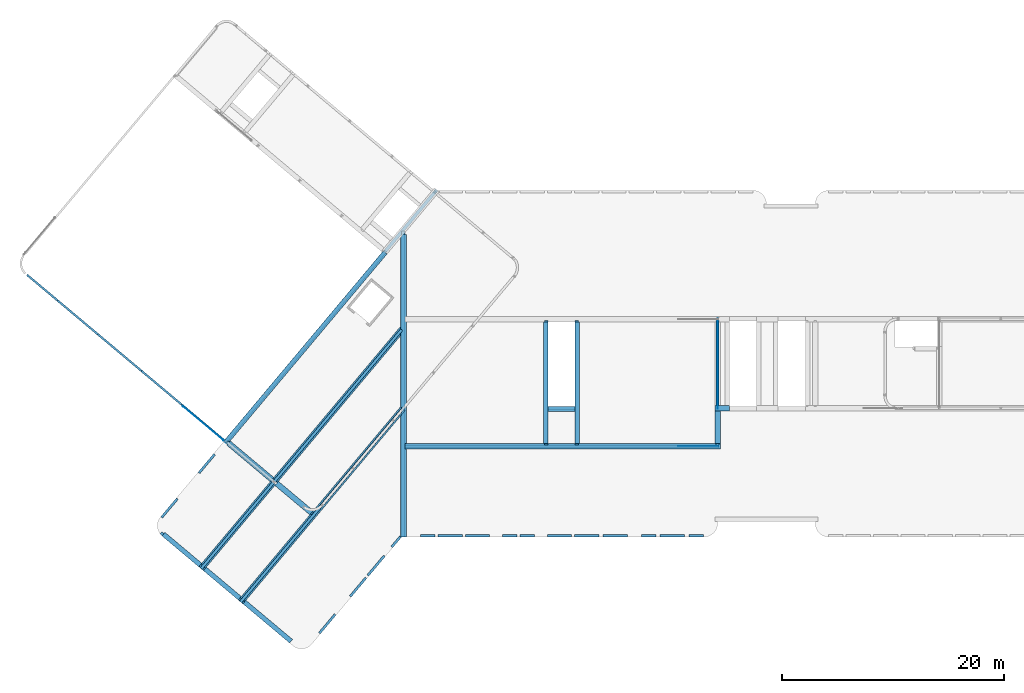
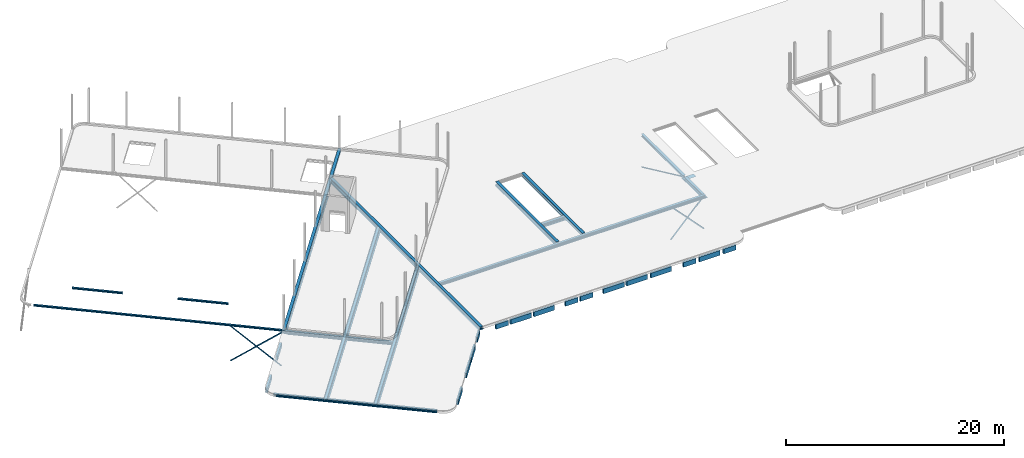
# One storey, part 6 of 11: 55 beams.
"""IFC2X3 building model written with IfcOpenShell, lengths in millimetres."""

from ifc_helpers import new_model, entity, si_unit, converted_unit, derived_unit, direction, frame, frame_2d, origin, origin_2d_with_axis, place, context, subcontext, project, spatial, rectangle, i_section, extrude, material, type_object, element, save


model = new_model("IFC2X3")

# Units and contexts
model_context = context("Model", 3, precision=0.01, world=origin(), true_north=direction((6.123031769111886e-17, 1.0)))
body_context = subcontext(model_context, "Body", "Model", "MODEL_VIEW")
ifc_project = project(units=[si_unit("LENGTHUNIT", "METRE", prefix="MILLI"), si_unit("AREAUNIT", "SQUARE_METRE"), si_unit("VOLUMEUNIT", "CUBIC_METRE"), derived_unit("MASSDENSITYUNIT", [(si_unit("MASSUNIT", "GRAM", prefix="KILO"), 1), (si_unit("LENGTHUNIT", "METRE"), -3)]), si_unit("MASSUNIT", "GRAM", prefix="KILO"), converted_unit("PLANEANGLEUNIT", "DEGREE", entity("IfcPlaneAngleMeasure", 0.017453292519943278), si_unit("PLANEANGLEUNIT", "RADIAN"), dimensions=[0, 0, 0, 0, 0, 0, 0])], contexts=[model_context])

# Site, building, storey
site_placement = place(None, origin())
site = spatial("IfcSite", under=ifc_project, at=site_placement, Name="Default", CompositionType="ELEMENT")
building_placement = place(site_placement, origin())
building = spatial("IfcBuilding", under=site, at=building_placement, Name="AT constructie", CompositionType="ELEMENT")
storey_placement = place(building_placement, frame((0.0, 0.0, 7728.0)))
storey = spatial("IfcBuildingStorey", under=building, at=storey_placement, Name="02 tweede verdieping", CompositionType="ELEMENT", Elevation=7728.0)

# Beams
ifc_material_1 = material(Name="f2_beton_prefab_gen")
beam_type_1 = type_object("IfcBeamType", Name="balk vierkant_gen_214x544 pbl", PredefinedType="NOTDEFINED")
beam_1_placement = place(storey_placement, frame((63711.874631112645, 11671.043508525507, 0.0), z_axis=(0.0, 0.0, 1.0), x_axis=(-1.0, 0.0, 0.0)))
element("IfcBeam", 1, at=beam_1_placement, inside=storey, type_object=beam_type_1, material=ifc_material_1, Name="NLRS_28_SF_LIB_balk vierkant prefab_gen_AT:balk vierkant_gen_214x544 pbl", ObjectType="NLRS_28_SF_LIB_balk vierkant prefab_gen_AT:balk vierkant_gen_214x544 pbl", context=body_context, shape_type="SweptSolid", body=[
    extrude(rectangle(XDim=544.0000000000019, YDim=213.99999999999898, at=frame_2d((0.0, -2.1671553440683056e-12), x_axis=(1.0, 0.0))), frame((-190.0, -107.0, -642.0), z_axis=(1.0, 0.0, 0.0), x_axis=(0.0, 0.0, -1.0)), (0.0, 0.0, 1.0), 1309.9999999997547),
])
beam_2_placement = place(storey_placement, frame((66281.87463111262, 11671.043508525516, 0.0), z_axis=(0.0, 0.0, 1.0), x_axis=(-1.0, 0.0, 0.0)))
element("IfcBeam", 2, at=beam_2_placement, inside=storey, type_object=beam_type_1, material=ifc_material_1, Name="NLRS_28_SF_LIB_balk vierkant prefab_gen_AT:balk vierkant_gen_214x544 pbl", ObjectType="NLRS_28_SF_LIB_balk vierkant prefab_gen_AT:balk vierkant_gen_214x544 pbl", context=body_context, shape_type="SweptSolid", body=[
    extrude(rectangle(XDim=544.0000000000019, YDim=213.99999999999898, at=frame_2d((0.0, -2.1671553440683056e-12), x_axis=(1.0, 0.0))), frame((-190.0, -107.0, -642.0), z_axis=(1.0, 0.0, 0.0), x_axis=(0.0, 0.0, -1.0)), (0.0, 0.0, 1.0), 2190.000000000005),
])
beam_3_placement = place(storey_placement, frame((61141.8746311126, 11671.043508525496, 0.0), z_axis=(0.0, 0.0, 1.0), x_axis=(-1.0, 0.0, 0.0)))
element("IfcBeam", 3, at=beam_3_placement, inside=storey, type_object=beam_type_1, material=ifc_material_1, Name="NLRS_28_SF_LIB_balk vierkant prefab_gen_AT:balk vierkant_gen_214x544 pbl", ObjectType="NLRS_28_SF_LIB_balk vierkant prefab_gen_AT:balk vierkant_gen_214x544 pbl", context=body_context, shape_type="SweptSolid", body=[
    extrude(rectangle(XDim=544.0000000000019, YDim=213.999999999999, at=origin_2d_with_axis()), frame((-190.0, -107.0, -642.0), z_axis=(1.0, 0.0, 0.0), x_axis=(0.0, 0.0, -1.0)), (0.0, 0.0, 1.0), 2190.000000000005),
])
beam_4_placement = place(storey_placement, frame((67971.87463111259, 11671.043508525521, 0.0), z_axis=(0.0, 0.0, 1.0), x_axis=(-1.0, 0.0, 0.0)))
element("IfcBeam", 4, at=beam_4_placement, inside=storey, type_object=beam_type_1, material=ifc_material_1, Name="NLRS_28_SF_LIB_balk vierkant prefab_gen_AT:balk vierkant_gen_214x544 pbl", ObjectType="NLRS_28_SF_LIB_balk vierkant prefab_gen_AT:balk vierkant_gen_214x544 pbl", context=body_context, shape_type="SweptSolid", body=[
    extrude(rectangle(XDim=544.0000000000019, YDim=213.999999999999, at=origin_2d_with_axis()), frame((-190.0, -107.0, -642.0), z_axis=(1.0, 0.0, 0.0), x_axis=(0.0, 0.0, -1.0)), (0.0, 0.0, 1.0), 1309.9999999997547),
])
for number, where, z_axis, x_axis in (
    (5, (58571.87463111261, 11671.043508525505, 0.0), (0.0, 0.0, 1.0), (-1.0, 0.0, 0.0)),
    (6, (56111.87463111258, 11671.043508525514, 0.0), (0.0, 0.0, 1.0), (-1.0, 0.0, 0.0)),
    (7, (48731.874631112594, 11671.043508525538, 0.0), (0.0, 0.0, 1.0), (-1.0, 0.0, 0.0)),
    (8, (46271.8746311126, 11671.043508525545, 0.0), (0.0, 0.0, 1.0), (-1.0, 0.0, 0.0)),
):
    element("IfcBeam", number, at=place(storey_placement, frame(where, z_axis=z_axis, x_axis=x_axis)), inside=storey, type_object=beam_type_1, material=ifc_material_1, Name="NLRS_28_SF_LIB_balk vierkant prefab_gen_AT:balk vierkant_gen_214x544 pbl", ObjectType="NLRS_28_SF_LIB_balk vierkant prefab_gen_AT:balk vierkant_gen_214x544 pbl", context=body_context, shape_type="SweptSolid", body=[
        extrude(rectangle(XDim=544.0000000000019, YDim=213.999999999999, at=origin_2d_with_axis()), frame((-190.0, -107.0, -642.0), z_axis=(1.0, 0.0, 0.0), x_axis=(0.0, 0.0, -1.0)), (0.0, 0.0, 1.0), 2190.000000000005),
    ])
beam_5_placement = place(storey_placement, frame((52771.874631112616, 11671.043508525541, 0.0), z_axis=(0.0, 0.0, 1.0), x_axis=(-1.0, 0.0, 0.0)))
element("IfcBeam", 9, at=beam_5_placement, inside=storey, type_object=beam_type_1, material=ifc_material_1, Name="NLRS_28_SF_LIB_balk vierkant prefab_gen_AT:balk vierkant_gen_214x544 pbl", ObjectType="NLRS_28_SF_LIB_balk vierkant prefab_gen_AT:balk vierkant_gen_214x544 pbl", context=body_context, shape_type="SweptSolid", body=[
    extrude(rectangle(XDim=544.0000000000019, YDim=213.99999999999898, at=frame_2d((0.0, -2.1671553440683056e-12), x_axis=(1.0, 0.0))), frame((-190.0, -107.0, -642.0), z_axis=(1.0, 0.0, 0.0), x_axis=(0.0, 0.0, -1.0)), (0.0, 0.0, 1.0), 1309.9999999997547),
])
for number, where, z_axis, x_axis in (
    (10, (51191.874631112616, 11671.043508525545, 0.0), (0.0, 0.0, 1.0), (-1.0, 0.0, 0.0)),
    (11, (43811.87463111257, 11671.043508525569, 0.0), (0.0, 0.0, 1.0), (-1.0, 0.0, 0.0)),
):
    element("IfcBeam", number, at=place(storey_placement, frame(where, z_axis=z_axis, x_axis=x_axis)), inside=storey, type_object=beam_type_1, material=ifc_material_1, Name="NLRS_28_SF_LIB_balk vierkant prefab_gen_AT:balk vierkant_gen_214x544 pbl", ObjectType="NLRS_28_SF_LIB_balk vierkant prefab_gen_AT:balk vierkant_gen_214x544 pbl", context=body_context, shape_type="SweptSolid", body=[
        extrude(rectangle(XDim=544.0000000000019, YDim=213.999999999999, at=origin_2d_with_axis()), frame((-190.0, -107.0, -642.0), z_axis=(1.0, 0.0, 0.0), x_axis=(0.0, 0.0, -1.0)), (0.0, 0.0, 1.0), 1309.9999999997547),
    ])
beam_6_placement = place(storey_placement, frame((34959.555795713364, 4468.489880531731, 0.0), z_axis=(0.0, 0.0, 1.0), x_axis=(-0.6427876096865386, -0.7660444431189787, 0.0)))
element("IfcBeam", 12, at=beam_6_placement, inside=storey, type_object=beam_type_1, material=ifc_material_1, Name="NLRS_28_SF_LIB_balk vierkant prefab_gen_AT:balk vierkant_gen_214x544 pbl", ObjectType="NLRS_28_SF_LIB_balk vierkant prefab_gen_AT:balk vierkant_gen_214x544 pbl", context=body_context, shape_type="SweptSolid", body=[
    extrude(rectangle(XDim=544.0000000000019, YDim=213.99999999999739, at=origin_2d_with_axis()), frame((-190.0, -107.0, -642.0), z_axis=(1.0, 0.0, 0.0), x_axis=(0.0, 0.0, -1.0)), (0.0, 0.0, 1.0), 2190.000000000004),
])
beam_7_placement = place(storey_placement, frame((37735.65178527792, 7776.912249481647, 0.0), z_axis=(0.0, 0.0, 1.0), x_axis=(-0.6427876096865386, -0.7660444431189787, 0.0)))
element("IfcBeam", 13, at=beam_7_placement, inside=storey, type_object=beam_type_1, material=ifc_material_1, Name="NLRS_28_SF_LIB_balk vierkant prefab_gen_AT:balk vierkant_gen_214x544 pbl", ObjectType="NLRS_28_SF_LIB_balk vierkant prefab_gen_AT:balk vierkant_gen_214x544 pbl", context=body_context, shape_type="SweptSolid", body=[
    extrude(rectangle(XDim=544.0000000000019, YDim=213.99999999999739, at=frame_2d((0.0, 4.369837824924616e-12), x_axis=(1.0, 0.0))), frame((-190.0, -107.0, -642.0), z_axis=(1.0, 0.0, 0.0), x_axis=(0.0, 0.0, -1.0)), (0.0, 0.0, 1.0), 2190.000000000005),
])
beam_8_placement = place(storey_placement, frame((39394.043818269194, 9753.306912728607, 0.0), z_axis=(0.0, 0.0, 1.0), x_axis=(-0.6427876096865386, -0.7660444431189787, 0.0)))
element("IfcBeam", 14, at=beam_8_placement, inside=storey, type_object=beam_type_1, material=ifc_material_1, Name="NLRS_28_SF_LIB_balk vierkant prefab_gen_AT:balk vierkant_gen_214x544 pbl", ObjectType="NLRS_28_SF_LIB_balk vierkant prefab_gen_AT:balk vierkant_gen_214x544 pbl", context=body_context, shape_type="SweptSolid", body=[
    extrude(rectangle(XDim=544.0000000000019, YDim=213.99999999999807, at=frame_2d((0.0, -4.703792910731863e-12), x_axis=(1.0, 0.0))), frame((-190.0, -107.0, -642.0), z_axis=(1.0, 0.0, 0.0), x_axis=(0.0, 0.0, -1.0)), (0.0, 0.0, 1.0), 2310.0000000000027),
])
beam_9_placement = place(storey_placement, frame((41092.99954903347, 11778.04350852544, 0.0), z_axis=(0.0, 0.0, 1.0), x_axis=(-0.6427876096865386, -0.7660444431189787, 0.0)))
element("IfcBeam", 15, at=beam_9_placement, inside=storey, type_object=beam_type_1, material=ifc_material_1, Name="NLRS_28_SF_LIB_balk vierkant prefab_gen_AT:balk vierkant_gen_214x544 pbl", ObjectType="NLRS_28_SF_LIB_balk vierkant prefab_gen_AT:balk vierkant_gen_214x544 pbl", context=body_context, shape_type="SweptSolid", body=[
    extrude(rectangle(XDim=544.0000000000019, YDim=213.99999999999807, at=frame_2d((0.0, 5.4001247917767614e-12), x_axis=(1.0, 0.0))), frame((194.4504159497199, -107.0, -642.0), z_axis=(1.0, 0.0, 0.0), x_axis=(0.0, 0.0, -1.0)), (0.0, 0.0, 1.0), 1228.6554951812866),
])
beam_10_placement = place(storey_placement, frame((20584.75895705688, 15029.158223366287, 0.0), z_axis=(0.0, 0.0, 1.0), x_axis=(-0.642787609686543, -0.7660444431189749, 0.0)))
element("IfcBeam", 16, at=beam_10_placement, inside=storey, type_object=beam_type_1, material=ifc_material_1, Name="NLRS_28_SF_LIB_balk vierkant prefab_gen_AT:balk vierkant_gen_214x544 pbl", ObjectType="NLRS_28_SF_LIB_balk vierkant prefab_gen_AT:balk vierkant_gen_214x544 pbl", context=body_context, shape_type="SweptSolid", body=[
    extrude(rectangle(XDim=544.0000000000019, YDim=213.99999999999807, at=frame_2d((0.0, 6.892264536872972e-13), x_axis=(1.0, 0.0))), frame((-190.0, 107.0, -642.0), z_axis=(1.0, 0.0, 0.0), x_axis=(0.0, 0.0, -1.0)), (0.0, 0.0, 1.0), 2190.0000000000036),
])
beam_11_placement = place(storey_placement, frame((23938.823018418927, 19026.37611828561, 0.0), z_axis=(0.0, 0.0, 1.0), x_axis=(-0.642787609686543, -0.7660444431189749, 0.0)))
element("IfcBeam", 17, at=beam_11_placement, inside=storey, type_object=beam_type_1, material=ifc_material_1, Name="NLRS_28_SF_LIB_balk vierkant prefab_gen_AT:balk vierkant_gen_214x544 pbl", ObjectType="NLRS_28_SF_LIB_balk vierkant prefab_gen_AT:balk vierkant_gen_214x544 pbl", context=body_context, shape_type="SweptSolid", body=[
    extrude(rectangle(XDim=544.0000000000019, YDim=213.99999999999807, at=frame_2d((0.0, -6.892264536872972e-13), x_axis=(1.0, 0.0))), frame((-190.0, 107.0, -642.0), z_axis=(1.0, 0.0, 0.0), x_axis=(0.0, 0.0, -1.0)), (0.0, 0.0, 1.0), 2190.0000000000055),
])
ifc_material_2 = material(Name="h2_staal_S355")
beam_type_2 = type_object("IfcBeamType", Name="balk strip liggend_gen_500x15", PredefinedType="NOTDEFINED")
beam_12_placement = place(storey_placement, frame((41146.87463111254, 19821.043508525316, 0.0)))
element("IfcBeam", 18, at=beam_12_placement, inside=storey, type_object=beam_type_2, material=ifc_material_2, Name="NLRS_28_SF_LIB_balk strip_gen_AT:balk strip liggend_gen_500x15", ObjectType="NLRS_28_SF_LIB_balk strip_gen_AT:balk strip liggend_gen_500x15", context=body_context, shape_type="SweptSolid", body=[
    extrude(rectangle(XDim=14.99999999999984, YDim=499.999999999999, at=frame_2d((5.413447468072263e-13, 0.0), x_axis=(1.0, 0.0))), frame((150.0, 0.0, -377.5000000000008), z_axis=(1.0, 0.0, 0.0), x_axis=(0.0, 0.0, -1.0)), (0.0, 0.0, 1.0), 28399.999999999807),
])
beam_13_placement = place(storey_placement, frame((69446.87463111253, 23021.043508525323, 0.0), z_axis=(0.0, 0.0, 1.0), x_axis=(0.0, -1.0, 0.0)))
element("IfcBeam", 19, at=beam_13_placement, inside=storey, type_object=beam_type_2, material=ifc_material_2, Name="NLRS_28_SF_LIB_balk strip_gen_AT:balk strip liggend_gen_500x15", ObjectType="NLRS_28_SF_LIB_balk strip_gen_AT:balk strip liggend_gen_500x15", context=body_context, shape_type="SweptSolid", body=[
    extrude(rectangle(XDim=14.99999999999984, YDim=499.999999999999, at=frame_2d((5.413447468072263e-13, -4.334310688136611e-12), x_axis=(1.0, 0.0))), frame((0.0, 0.0, -377.5000000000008), z_axis=(1.0, 0.0, 0.0), x_axis=(0.0, 0.0, -1.0)), (0.0, 0.0, 1.0), 2950.0000000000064),
])
beam_14_placement = place(storey_placement, frame((69196.87463111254, 23271.04350852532, 0.0)))
element("IfcBeam", 20, at=beam_14_placement, inside=storey, type_object=beam_type_2, material=ifc_material_2, Name="NLRS_28_SF_LIB_balk strip_gen_AT:balk strip liggend_gen_500x15", ObjectType="NLRS_28_SF_LIB_balk strip_gen_AT:balk strip liggend_gen_500x15", context=body_context, shape_type="SweptSolid", body=[
    extrude(rectangle(XDim=14.99999999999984, YDim=499.999999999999, at=frame_2d((5.413447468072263e-13, 0.0), x_axis=(1.0, 0.0))), frame((0.0, 0.0, -377.5000000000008), z_axis=(1.0, 0.0, 0.0), x_axis=(0.0, 0.0, -1.0)), (0.0, 0.0, 1.0), 1304.9999993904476),
])
beam_15_placement = place(storey_placement, frame((29524.116056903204, 16659.470966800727, 0.0), z_axis=(0.0, 0.0, 1.0), x_axis=(0.7660444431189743, -0.6427876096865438, 0.0)))
element("IfcBeam", 21, at=beam_15_placement, inside=storey, type_object=beam_type_2, material=ifc_material_2, Name="NLRS_28_SF_LIB_balk strip_gen_AT:balk strip liggend_gen_500x15", ObjectType="NLRS_28_SF_LIB_balk strip_gen_AT:balk strip liggend_gen_500x15", context=body_context, shape_type="SweptSolid", body=[
    extrude(rectangle(XDim=14.999999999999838, YDim=500.00000000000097, at=frame_2d((5.413447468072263e-13, 8.526512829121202e-13), x_axis=(1.0, 0.0))), frame((270.0, 0.0, -377.5000000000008), z_axis=(1.0, 0.0, 0.0), x_axis=(0.0, 0.0, -1.0)), (0.0, 0.0, 1.0), 4110.00000000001),
])
beam_16_placement = place(storey_placement, frame((25383.64584184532, 20133.737997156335, 0.0), z_axis=(0.0, 0.0, 1.0), x_axis=(0.7660444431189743, -0.6427876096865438, 0.0)))
element("IfcBeam", 22, at=beam_16_placement, inside=storey, type_object=beam_type_2, material=ifc_material_2, Name="NLRS_28_SF_LIB_balk strip_gen_AT:balk strip liggend_gen_500x15", ObjectType="NLRS_28_SF_LIB_balk strip_gen_AT:balk strip liggend_gen_500x15", context=body_context, shape_type="SweptSolid", body=[
    extrude(rectangle(XDim=14.99999999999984, YDim=500.0000000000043, at=frame_2d((5.413447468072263e-13, -4.703792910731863e-12), x_axis=(1.0, 0.0))), frame((0.0, 0.0, -377.5000000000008), z_axis=(1.0, 0.0, 0.0), x_axis=(0.0, 0.0, -1.0)), (0.0, 0.0, 1.0), 5134.999999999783),
])
beam_type_3 = type_object("IfcBeamType", Name="balk HE_gen_HEB260", PredefinedType="NOTDEFINED")
beam_17_placement = place(storey_placement, frame((41146.87463111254, 19821.043508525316, 0.0)))
element("IfcBeam", 23, at=beam_17_placement, inside=storey, type_object=beam_type_3, material=ifc_material_2, Name="NLRS_28_SF_LIB_balk HEB_gen_AT:balk HE_gen_HEB260", ObjectType="NLRS_28_SF_LIB_balk HEB_gen_AT:balk HE_gen_HEB260", context=body_context, shape_type="SweptSolid", body=[
    extrude(i_section(OverallWidth=260.00000000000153, OverallDepth=260.00000000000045, WebThickness=9.999999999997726, FlangeThickness=17.50000000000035, FilletRadius=23.999999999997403, at=frame_2d((5.400124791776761e-13, 4.320099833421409e-12), x_axis=(0.0, 1.0))), frame((162.70000000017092, 0.0, -240.0), z_axis=(1.0, 0.0, 0.0), x_axis=(0.0, 0.0, -1.0)), (0.0, 0.0, 1.0), 28267.299999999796),
])
beam_18_placement = place(storey_placement, frame((69446.87463111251, 31141.043508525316, 0.0), z_axis=(0.0, 0.0, 1.0), x_axis=(0.0, -1.0, 0.0)))
element("IfcBeam", 24, at=beam_18_placement, inside=storey, type_object=beam_type_3, material=ifc_material_2, Name="NLRS_28_SF_LIB_balk HEB_gen_AT:balk HE_gen_HEB260", ObjectType="NLRS_28_SF_LIB_balk HEB_gen_AT:balk HE_gen_HEB260", context=body_context, shape_type="SweptSolid", body=[
    extrude(i_section(OverallWidth=259.9999999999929, OverallDepth=260.00000000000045, WebThickness=9.999999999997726, FlangeThickness=17.50000000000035, FilletRadius=24.00000000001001, at=frame_2d((5.400124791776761e-13, 4.320099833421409e-12), x_axis=(0.0, 1.0))), frame((0.0, 0.0, -240.0), z_axis=(1.0, 0.0, 0.0), x_axis=(0.0, 0.0, -1.0)), (0.0, 0.0, 1.0), 7740.0),
])
beam_19_placement = place(storey_placement, frame((69446.8746311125, 23141.043508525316, 0.0), z_axis=(0.0, 0.0, 1.0), x_axis=(0.0, -1.0, 0.0)))
element("IfcBeam", 25, at=beam_19_placement, inside=storey, type_object=beam_type_3, material=ifc_material_2, Name="NLRS_28_SF_LIB_balk HEB_gen_AT:balk HE_gen_HEB260", ObjectType="NLRS_28_SF_LIB_balk HEB_gen_AT:balk HE_gen_HEB260", context=body_context, shape_type="SweptSolid", body=[
    extrude(i_section(OverallWidth=260.00000000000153, OverallDepth=260.00000000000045, WebThickness=9.999999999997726, FlangeThickness=17.50000000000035, FilletRadius=24.00000000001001, at=frame_2d((5.400124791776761e-13, 4.320099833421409e-12), x_axis=(0.0, 1.0))), frame((0.0, 0.0, -240.0), z_axis=(1.0, 0.0, 0.0), x_axis=(0.0, 0.0, -1.0)), (0.0, 0.0, 1.0), 3189.9999999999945),
])
beam_20_placement = place(storey_placement, frame((26482.54420929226, 5800.550995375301, 0.0), z_axis=(0.0, 0.0, 1.0), x_axis=(0.642787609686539, 0.7660444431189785, 0.0)))
element("IfcBeam", 26, at=beam_20_placement, inside=storey, type_object=beam_type_3, material=ifc_material_2, Name="NLRS_28_SF_LIB_balk HEB_gen_AT:balk HE_gen_HEB260", ObjectType="NLRS_28_SF_LIB_balk HEB_gen_AT:balk HE_gen_HEB260", context=body_context, shape_type="SweptSolid", body=[
    extrude(i_section(OverallWidth=260.0000000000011, OverallDepth=260.00000000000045, WebThickness=10.000000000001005, FlangeThickness=17.50000000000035, FilletRadius=24.0, at=frame_2d((5.400124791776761e-13, -4.703792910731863e-12), x_axis=(0.0, 1.0))), frame((0.0, 0.0, -240.0), z_axis=(1.0, 0.0, 0.0), x_axis=(0.0, 0.0, -1.0)), (0.0, 0.0, 1.0), 22819.48220653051),
])
beam_21_placement = place(storey_placement, frame((54171.87463111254, 23266.043508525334, 0.0)))
element("IfcBeam", 27, at=beam_21_placement, inside=storey, type_object=beam_type_3, material=ifc_material_2, Name="NLRS_28_SF_LIB_balk HEB_gen_AT:balk HE_gen_HEB260", ObjectType="NLRS_28_SF_LIB_balk HEB_gen_AT:balk HE_gen_HEB260", context=body_context, shape_type="SweptSolid", body=[
    extrude(i_section(OverallWidth=260.00000000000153, OverallDepth=260.00000000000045, WebThickness=9.999999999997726, FlangeThickness=17.50000000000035, FilletRadius=24.0, at=frame_2d((5.400124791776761e-13, -4.320099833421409e-12), x_axis=(0.0, 1.0))), frame((0.0, 0.0, -240.0), z_axis=(1.0, 0.0, 0.0), x_axis=(0.0, 0.0, -1.0)), (0.0, 0.0, 1.0), 2450.0000000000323),
])
beam_22_placement = place(storey_placement, frame((19508.156762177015, 11879.245094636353, 0.0), z_axis=(0.0, 0.0, 1.0), x_axis=(0.7660444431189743, -0.6427876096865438, 0.0)))
element("IfcBeam", 28, at=beam_22_placement, inside=storey, type_object=beam_type_3, material=ifc_material_2, Name="NLRS_28_SF_LIB_balk HEB_gen_AT:balk HE_gen_HEB260", ObjectType="NLRS_28_SF_LIB_balk HEB_gen_AT:balk HE_gen_HEB260", context=body_context, shape_type="SweptSolid", body=[
    extrude(i_section(OverallWidth=260.0000000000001, OverallDepth=260.00000000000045, WebThickness=9.999999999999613, FlangeThickness=17.50000000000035, FilletRadius=24.0, at=frame_2d((5.400124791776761e-13, 0.0), x_axis=(0.0, 1.0))), frame((-250.0, 0.0, -240.0), z_axis=(1.0, 0.0, 0.0), x_axis=(0.0, 0.0, -1.0)), (0.0, 0.0, 1.0), 4719.999998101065),
])
beam_23_placement = place(storey_placement, frame((26708.974526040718, 5837.041564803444, 0.0), z_axis=(0.0, 0.0, 1.0), x_axis=(0.7660444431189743, -0.6427876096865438, 0.0)))
element("IfcBeam", 29, at=beam_23_placement, inside=storey, type_object=beam_type_3, material=ifc_material_2, Name="NLRS_28_SF_LIB_balk HEB_gen_AT:balk HE_gen_HEB260", ObjectType="NLRS_28_SF_LIB_balk HEB_gen_AT:balk HE_gen_HEB260", context=body_context, shape_type="SweptSolid", body=[
    extrude(i_section(OverallWidth=259.9999999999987, OverallDepth=260.00000000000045, WebThickness=9.999999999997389, FlangeThickness=17.50000000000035, FilletRadius=24.0, at=frame_2d((5.400124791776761e-13, 1.2363443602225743e-12), x_axis=(0.0, 1.0))), frame((0.0, 0.0, -240.0), z_axis=(1.0, 0.0, 0.0), x_axis=(0.0, 0.0, -1.0)), (0.0, 0.0, 1.0), 5604.999999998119),
])
beam_24_placement = place(storey_placement, frame((25272.569397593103, 20226.942200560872, 0.0), z_axis=(0.0, 0.0, 1.0), x_axis=(0.7660444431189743, -0.6427876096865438, 0.0)))
element("IfcBeam", 30, at=beam_24_placement, inside=storey, type_object=beam_type_3, material=ifc_material_2, Name="NLRS_28_SF_LIB_balk HEB_gen_AT:balk HE_gen_HEB260", ObjectType="NLRS_28_SF_LIB_balk HEB_gen_AT:balk HE_gen_HEB260", context=body_context, shape_type="SweptSolid", body=[
    extrude(i_section(OverallWidth=260.00000000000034, OverallDepth=260.00000000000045, WebThickness=10.000000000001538, FlangeThickness=17.50000000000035, FilletRadius=24.0, at=frame_2d((5.400124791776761e-13, 0.0), x_axis=(0.0, 1.0))), frame((0.0, 0.0, -240.0), z_axis=(1.0, 0.0, 0.0), x_axis=(0.0, 0.0, -1.0)), (0.0, 0.0, 1.0), 5420.000000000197),
])
beam_25_placement = place(storey_placement, frame((22935.546183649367, 8807.519150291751, 0.0), z_axis=(0.0, 0.0, 1.0), x_axis=(0.642787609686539, 0.7660444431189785, 0.0)))
element("IfcBeam", 31, at=beam_25_placement, inside=storey, type_object=beam_type_3, material=ifc_material_2, Name="NLRS_28_SF_LIB_balk HEB_gen_AT:balk HE_gen_HEB260", ObjectType="NLRS_28_SF_LIB_balk HEB_gen_AT:balk HE_gen_HEB260", context=body_context, shape_type="SweptSolid", body=[
    extrude(i_section(OverallWidth=260.0000000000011, OverallDepth=260.00000000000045, WebThickness=10.000000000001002, FlangeThickness=17.50000000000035, FilletRadius=24.0, at=frame_2d((5.400124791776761e-13, -2.3590018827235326e-12), x_axis=(0.0, 1.0))), frame((0.0, 0.0, -240.0), z_axis=(1.0, 0.0, 0.0), x_axis=(0.0, 0.0, -1.0)), (0.0, 0.0, 1.0), 28098.439010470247),
])
beam_26_placement = place(storey_placement, frame((23131.546976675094, 8838.859702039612, 0.0), z_axis=(0.0, 0.0, 1.0), x_axis=(0.7660444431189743, -0.6427876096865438, 0.0)))
element("IfcBeam", 32, at=beam_26_placement, inside=storey, type_object=beam_type_3, material=ifc_material_2, Name="NLRS_28_SF_LIB_balk HEB_gen_AT:balk HE_gen_HEB260", ObjectType="NLRS_28_SF_LIB_balk HEB_gen_AT:balk HE_gen_HEB260", context=body_context, shape_type="SweptSolid", body=[
    extrude(i_section(OverallWidth=259.9999999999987, OverallDepth=260.00000000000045, WebThickness=9.999999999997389, FlangeThickness=17.50000000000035, FilletRadius=24.0, at=frame_2d((5.400124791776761e-13, 4.263256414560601e-13), x_axis=(0.0, 1.0))), frame((0.0, 0.0, -240.0), z_axis=(1.0, 0.0, 0.0), x_axis=(0.0, 0.0, -1.0)), (0.0, 0.0, 1.0), 4390.0),
])
beam_27_placement = place(storey_placement, frame((29623.70183450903, 16575.908577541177, 0.0), z_axis=(0.0, 0.0, 1.0), x_axis=(0.7660444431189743, -0.6427876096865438, 0.0)))
element("IfcBeam", 33, at=beam_27_placement, inside=storey, type_object=beam_type_3, material=ifc_material_2, Name="NLRS_28_SF_LIB_balk HEB_gen_AT:balk HE_gen_HEB260", ObjectType="NLRS_28_SF_LIB_balk HEB_gen_AT:balk HE_gen_HEB260", context=body_context, shape_type="SweptSolid", body=[
    extrude(i_section(OverallWidth=259.9999999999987, OverallDepth=260.00000000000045, WebThickness=10.000000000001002, FlangeThickness=17.50000000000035, FilletRadius=24.0, at=frame_2d((5.400124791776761e-13, 1.6626700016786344e-12), x_axis=(0.0, 1.0))), frame((0.0, 0.0, -240.0), z_axis=(1.0, 0.0, 0.0), x_axis=(0.0, 0.0, -1.0)), (0.0, 0.0, 1.0), 4370.000000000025),
])
beam_type_4 = type_object("IfcBeamType", Name="balk strip liggend_gen_420x15", PredefinedType="NOTDEFINED")
beam_28_placement = place(storey_placement, frame((54021.874631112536, 23186.043508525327, 0.0)))
element("IfcBeam", 34, at=beam_28_placement, inside=storey, type_object=beam_type_4, material=ifc_material_2, Name="NLRS_28_SF_LIB_balk strip_gen_AT:balk strip liggend_gen_420x15", ObjectType="NLRS_28_SF_LIB_balk strip_gen_AT:balk strip liggend_gen_420x15", context=body_context, shape_type="SweptSolid", body=[
    extrude(rectangle(XDim=14.99999999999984, YDim=419.99999999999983, at=frame_2d((-5.413447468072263e-13, 0.0), x_axis=(1.0, 0.0))), frame((150.0, 0.0, -377.5000000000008), z_axis=(1.0, 0.0, 0.0), x_axis=(0.0, 0.0, 1.0)), (0.0, 0.0, 1.0), 2450.0000000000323),
])
beam_29_placement = place(storey_placement, frame((26626.207240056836, 5971.761928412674, 0.0), z_axis=(0.0, 0.0, 1.0), x_axis=(0.7660444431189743, -0.6427876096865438, 0.0)))
element("IfcBeam", 35, at=beam_29_placement, inside=storey, type_object=beam_type_4, material=ifc_material_2, Name="NLRS_28_SF_LIB_balk strip_gen_AT:balk strip liggend_gen_420x15", ObjectType="NLRS_28_SF_LIB_balk strip_gen_AT:balk strip liggend_gen_420x15", context=body_context, shape_type="SweptSolid", body=[
    extrude(rectangle(XDim=14.99999999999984, YDim=419.99999999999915, at=frame_2d((-5.413447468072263e-13, 0.0), x_axis=(1.0, 0.0))), frame((270.0, 0.0, -377.5000000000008), z_axis=(1.0, 0.0, 0.0), x_axis=(0.0, 0.0, 1.0)), (0.0, 0.0, 1.0), 5484.999999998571),
])
beam_30_placement = place(storey_placement, frame((19540.296142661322, 11917.547316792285, 0.0), z_axis=(0.0, 0.0, 1.0), x_axis=(0.7660444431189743, -0.6427876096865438, 0.0)))
element("IfcBeam", 36, at=beam_30_placement, inside=storey, type_object=beam_type_4, material=ifc_material_2, Name="NLRS_28_SF_LIB_balk strip_gen_AT:balk strip liggend_gen_420x15", ObjectType="NLRS_28_SF_LIB_balk strip_gen_AT:balk strip liggend_gen_420x15", context=body_context, shape_type="SweptSolid", body=[
    extrude(rectangle(XDim=14.99999999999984, YDim=420.00000000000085, at=frame_2d((-5.413447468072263e-13, 0.0), x_axis=(1.0, 0.0))), frame((0.0, 0.0, -377.5000000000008), z_axis=(1.0, 0.0, 0.0), x_axis=(0.0, 0.0, 1.0)), (0.0, 0.0, 1.0), 4329.999998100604),
])
beam_31_placement = place(storey_placement, frame((23064.100579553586, 8960.724313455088, 0.0), z_axis=(0.0, 0.0, 1.0), x_axis=(0.7660444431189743, -0.6427876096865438, 0.0)))
element("IfcBeam", 37, at=beam_31_placement, inside=storey, type_object=beam_type_4, material=ifc_material_2, Name="NLRS_28_SF_LIB_balk strip_gen_AT:balk strip liggend_gen_420x15", ObjectType="NLRS_28_SF_LIB_balk strip_gen_AT:balk strip liggend_gen_420x15", context=body_context, shape_type="SweptSolid", body=[
    extrude(rectangle(XDim=14.99999999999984, YDim=419.99999999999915, at=frame_2d((-5.413447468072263e-13, 0.0), x_axis=(1.0, 0.0))), frame((270.0, 0.0, -377.5000000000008), z_axis=(1.0, 0.0, 0.0), x_axis=(0.0, 0.0, 1.0)), (0.0, 0.0, 1.0), 4110.000000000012),
])
beam_type_5 = type_object("IfcBeamType", Name="balk HE_gen_HEB320", PredefinedType="NOTDEFINED")
beam_32_placement = place(storey_placement, frame((41146.87463111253, 11647.543508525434, 0.0), z_axis=(0.0, 0.0, 1.0), x_axis=(0.0, 1.0, 0.0)))
element("IfcBeam", 38, at=beam_32_placement, inside=storey, type_object=beam_type_5, material=ifc_material_2, Name="NLRS_28_SF_LIB_balk HEB_gen_AT:balk HE_gen_HEB320", ObjectType="NLRS_28_SF_LIB_balk HEB_gen_AT:balk HE_gen_HEB320", context=body_context, shape_type="SweptSolid", body=[
    extrude(i_section(OverallWidth=300.0000000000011, OverallDepth=319.9999999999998, WebThickness=11.500000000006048, FlangeThickness=20.49999999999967, FilletRadius=27.000000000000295, at=frame_2d((-1.6342482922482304e-12, 0.0), x_axis=(0.0, 1.0))), frame((0.0, 0.0, -210.0), z_axis=(1.0, 0.0, 0.0), x_axis=(0.0, 0.0, -1.0)), (0.0, 0.0, 1.0), 27580.000000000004),
])
beam_33_placement = place(storey_placement, frame((25080.3957007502, 20192.38398530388, 0.0), z_axis=(0.0, 0.0, 1.0), x_axis=(0.642787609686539, 0.7660444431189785, 0.0)))
element("IfcBeam", 39, at=beam_33_placement, inside=storey, type_object=beam_type_5, material=ifc_material_2, Name="NLRS_28_SF_LIB_balk HEB_gen_AT:balk HE_gen_HEB320", ObjectType="NLRS_28_SF_LIB_balk HEB_gen_AT:balk HE_gen_HEB320", context=body_context, shape_type="SweptSolid", body=[
    extrude(i_section(OverallWidth=299.9999999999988, OverallDepth=319.99999999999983, WebThickness=11.499999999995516, FlangeThickness=20.49999999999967, FilletRadius=26.999999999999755, at=frame_2d((-5.400124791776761e-13, 0.0), x_axis=(0.0, 1.0))), frame((0.0, 0.0, -210.0), z_axis=(1.0, 0.0, 0.0), x_axis=(0.0, 0.0, -1.0)), (0.0, 0.0, 1.0), 29672.572021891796),
])
beam_34_placement = place(storey_placement, frame((56771.87463111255, 31141.043508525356, 0.0), z_axis=(0.0, 0.0, 1.0), x_axis=(0.0, -1.0, 0.0)))
element("IfcBeam", 40, at=beam_34_placement, inside=storey, type_object=beam_type_5, material=ifc_material_2, Name="NLRS_28_SF_LIB_balk HEB_gen_AT:balk HE_gen_HEB320", ObjectType="NLRS_28_SF_LIB_balk HEB_gen_AT:balk HE_gen_HEB320", context=body_context, shape_type="SweptSolid", body=[
    extrude(i_section(OverallWidth=300.0000000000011, OverallDepth=319.9999999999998, WebThickness=11.500000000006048, FlangeThickness=20.49999999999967, FilletRadius=27.000000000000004, at=frame_2d((-1.6342482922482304e-12, 8.65441052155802e-12), x_axis=(0.0, 1.0))), frame((0.0, 0.0, -210.0), z_axis=(1.0, 0.0, 0.0), x_axis=(0.0, 0.0, -1.0)), (0.0, 0.0, 1.0), 11189.999999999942),
])
beam_35_placement = place(storey_placement, frame((54021.87463111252, 31141.043508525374, 0.0), z_axis=(0.0, 0.0, 1.0), x_axis=(0.0, -1.0, 0.0)))
element("IfcBeam", 41, at=beam_35_placement, inside=storey, type_object=beam_type_5, material=ifc_material_2, Name="NLRS_28_SF_LIB_balk HEB_gen_AT:balk HE_gen_HEB320", ObjectType="NLRS_28_SF_LIB_balk HEB_gen_AT:balk HE_gen_HEB320", context=body_context, shape_type="SweptSolid", body=[
    extrude(i_section(OverallWidth=300.0000000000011, OverallDepth=319.9999999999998, WebThickness=11.500000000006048, FlangeThickness=20.49999999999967, FilletRadius=27.000000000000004, at=frame_2d((-1.6342482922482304e-12, 0.0), x_axis=(0.0, 1.0))), frame((0.0, 0.0, -210.0), z_axis=(1.0, 0.0, 0.0), x_axis=(0.0, 0.0, -1.0)), (0.0, 0.0, 1.0), 11189.999999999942),
])
beam_type_6 = type_object("IfcBeamType", Name="balk strip liggend_gen_560x20", PredefinedType="NOTDEFINED")
beam_36_placement = place(storey_placement, frame((41146.87463111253, 11647.543508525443, 0.0), z_axis=(0.0, 0.0, 1.0), x_axis=(0.0, 1.0, 0.0)))
element("IfcBeam", 42, at=beam_36_placement, inside=storey, type_object=beam_type_6, material=ifc_material_2, Name="NLRS_28_SF_LIB_balk strip_gen_AT:balk strip liggend_gen_560x20", ObjectType="NLRS_28_SF_LIB_balk strip_gen_AT:balk strip liggend_gen_560x20", context=body_context, shape_type="SweptSolid", body=[
    extrude(rectangle(XDim=19.999999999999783, YDim=559.999999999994, at=frame_2d((0.0, 4.320099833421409e-12), x_axis=(1.0, 0.0))), frame((0.0, 0.0, -380.0), z_axis=(1.0, 0.0, 0.0), x_axis=(0.0, 0.0, -1.0)), (0.0, 0.0, 1.0), 27272.079029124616),
])
beam_type_7 = type_object("IfcBeamType", Name="balk strip liggend_gen_440x20", PredefinedType="NOTDEFINED")
beam_37_placement = place(storey_placement, frame((25126.35836733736, 20153.81672872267, 0.0), z_axis=(0.0, 0.0, 1.0), x_axis=(0.642787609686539, 0.7660444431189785, 0.0)))
element("IfcBeam", 43, at=beam_37_placement, inside=storey, type_object=beam_type_7, material=ifc_material_2, Name="NLRS_28_SF_LIB_balk strip_gen_AT:balk strip liggend_gen_440x20", ObjectType="NLRS_28_SF_LIB_balk strip_gen_AT:balk strip liggend_gen_440x20", context=body_context, shape_type="SweptSolid", body=[
    extrude(rectangle(XDim=19.999999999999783, YDim=440.0000000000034, at=frame_2d((5.417888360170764e-13, 3.055333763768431e-12), x_axis=(1.0, 0.0))), frame((0.0, 0.0, -380.0), z_axis=(1.0, 0.0, 0.0), x_axis=(0.0, 0.0, -1.0)), (0.0, 0.0, 1.0), 22375.000000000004),
])
beam_type_8 = type_object("IfcBeamType", Name="balk strip liggend_gen_540x15", PredefinedType="NOTDEFINED")
beam_38_placement = place(storey_placement, frame((26482.544209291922, 5800.550995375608, 0.0), z_axis=(0.0, 0.0, 1.0), x_axis=(0.642787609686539, 0.7660444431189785, 0.0)))
element("IfcBeam", 44, at=beam_38_placement, inside=storey, type_object=beam_type_8, material=ifc_material_2, Name="NLRS_28_SF_LIB_balk strip_gen_AT:balk strip liggend_gen_540x15", ObjectType="NLRS_28_SF_LIB_balk strip_gen_AT:balk strip liggend_gen_540x15", context=body_context, shape_type="SweptSolid", body=[
    extrude(rectangle(XDim=14.99999999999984, YDim=540.0000000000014, at=frame_2d((5.413447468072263e-13, 0.0), x_axis=(1.0, 0.0))), frame((0.0, 0.0, -377.5000000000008), z_axis=(1.0, 0.0, 0.0), x_axis=(0.0, 0.0, -1.0)), (0.0, 0.0, 1.0), 22735.8620508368),
])
beam_39_placement = place(storey_placement, frame((22929.115181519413, 8799.854980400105, 0.0), z_axis=(0.0, 0.0, 1.0), x_axis=(0.642787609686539, 0.7660444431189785, 0.0)))
element("IfcBeam", 45, at=beam_39_placement, inside=storey, type_object=beam_type_8, material=ifc_material_2, Name="NLRS_28_SF_LIB_balk strip_gen_AT:balk strip liggend_gen_540x15", ObjectType="NLRS_28_SF_LIB_balk strip_gen_AT:balk strip liggend_gen_540x15", context=body_context, shape_type="SweptSolid", body=[
    extrude(rectangle(XDim=14.99999999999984, YDim=539.9999999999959, at=frame_2d((5.413447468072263e-13, 2.7000623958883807e-12), x_axis=(1.0, 0.0))), frame((0.0, 0.0, -377.5000000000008), z_axis=(1.0, 0.0, 0.0), x_axis=(0.0, 0.0, -1.0)), (0.0, 0.0, 1.0), 28335.416728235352),
])
beam_type_9 = type_object("IfcBeamType", Name="balk HE_gen_HEA180", PredefinedType="NOTDEFINED")
beam_40_placement = place(storey_placement, frame((7197.088176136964, 35198.260733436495, 0.0), z_axis=(0.0, 0.0, 1.0), x_axis=(0.7660444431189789, -0.6427876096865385, 0.0)))
element("IfcBeam", 46, at=beam_40_placement, inside=storey, type_object=beam_type_9, material=ifc_material_2, Name="NLRS_28_SF_LIB_balk HEA_gen_AT:balk HE_gen_HEA180", ObjectType="NLRS_28_SF_LIB_balk HEA_gen_AT:balk HE_gen_HEA180", context=body_context, shape_type="SweptSolid", body=[
    extrude(i_section(OverallWidth=180.00000000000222, OverallDepth=171.0000000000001, WebThickness=5.999999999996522, FlangeThickness=9.500000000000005, FilletRadius=15.000000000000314, at=frame_2d((0.0, -1.0466294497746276e-11), x_axis=(0.0, 1.0))), frame((0.0, 90.0, -85.50000000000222), z_axis=(1.0, 0.0, 0.0), x_axis=(0.0, 0.0, -1.0)), (0.0, 0.0, 1.0), 23195.000000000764),
])
beam_41_placement = place(storey_placement, frame((9954.848171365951, 32884.2253385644, 0.0), z_axis=(0.0, 0.0, 1.0), x_axis=(0.7660444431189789, -0.6427876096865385, 0.0)))
element("IfcBeam", 47, at=beam_41_placement, inside=storey, type_object=beam_type_9, material=ifc_material_2, Name="NLRS_28_SF_LIB_balk HEA_gen_AT:balk HE_gen_HEA180", ObjectType="NLRS_28_SF_LIB_balk HEA_gen_AT:balk HE_gen_HEA180", context=body_context, shape_type="SweptSolid", body=[
    extrude(i_section(OverallWidth=180.00000000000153, OverallDepth=171.0000000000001, WebThickness=6.000000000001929, FlangeThickness=9.500000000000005, FilletRadius=15.00000000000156, at=frame_2d((0.0, 0.0), x_axis=(0.0, 1.0))), frame((0.0, 90.0, 2285.5000000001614), z_axis=(1.0, 0.0, 0.0), x_axis=(0.0, 0.0, -1.0)), (0.0, 0.0, 1.0), 4729.999999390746),
])
beam_42_placement = place(storey_placement, frame((17508.046380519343, 26546.33950705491, 0.0), z_axis=(0.0, 0.0, 1.0), x_axis=(0.7660444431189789, -0.6427876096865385, 0.0)))
element("IfcBeam", 48, at=beam_42_placement, inside=storey, type_object=beam_type_9, material=ifc_material_2, Name="NLRS_28_SF_LIB_balk HEA_gen_AT:balk HE_gen_HEA180", ObjectType="NLRS_28_SF_LIB_balk HEA_gen_AT:balk HE_gen_HEA180", context=body_context, shape_type="SweptSolid", body=[
    extrude(i_section(OverallWidth=179.99999999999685, OverallDepth=171.0000000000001, WebThickness=5.999999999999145, FlangeThickness=9.500000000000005, FilletRadius=15.000000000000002, at=frame_2d((0.0, 4.703792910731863e-12), x_axis=(0.0, 1.0))), frame((6.096043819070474e-07, 90.0, 2285.5000000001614), z_axis=(1.0, 0.0, 0.0), x_axis=(0.0, 0.0, -1.0)), (0.0, 0.0, 1.0), 4729.999999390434),
])
beam_type_10 = type_object("IfcBeamType", Name="balk strip liggend_gen_120x10", PredefinedType="NOTDEFINED")
beam_43_placement = place(storey_placement, frame((69451.8746311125, 23218.035510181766, -213.04289438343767), z_axis=(0.0, 0.42143049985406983, 0.9068607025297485), x_axis=(0.0, 0.9068607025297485, -0.42143049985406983)))
element("IfcBeam", 49, at=beam_43_placement, inside=storey, type_object=beam_type_10, material=ifc_material_2, Name="NLRS_28_SF_LIB_balk strip_gen_AT:balk strip liggend_gen_120x10", ObjectType="NLRS_28_SF_LIB_balk strip_gen_AT:balk strip liggend_gen_120x10", context=body_context, shape_type="SweptSolid", body=[
    extrude(rectangle(XDim=120.0000000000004, YDim=9.999999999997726, at=frame_2d((-4.902744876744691e-13, 0.0), x_axis=(1.0, 0.0))), frame((0.0, 5.0, 0.0), z_axis=(1.0, 0.0, 0.0), x_axis=(0.0, 0.0, -1.0)), (0.0, 0.0, 1.0), 8880.093685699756),
])
beam_44_placement = place(storey_placement, frame((65946.8746311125, 19831.04350854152, -240.0), z_axis=(0.7240441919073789, 0.0, 0.689753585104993), x_axis=(0.689753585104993, 0.0, -0.7240441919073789)))
element("IfcBeam", 50, at=beam_44_placement, inside=storey, type_object=beam_type_10, material=ifc_material_2, Name="NLRS_28_SF_LIB_balk strip_gen_AT:balk strip liggend_gen_120x10", ObjectType="NLRS_28_SF_LIB_balk strip_gen_AT:balk strip liggend_gen_120x10", context=body_context, shape_type="SweptSolid", body=[
    extrude(rectangle(XDim=120.00000000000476, YDim=10.000000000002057, at=origin_2d_with_axis()), frame((0.0, -5.0, 0.0), z_axis=(1.0, 0.0, 0.0), x_axis=(0.0, 0.0, -1.0)), (0.0, 0.0, 1.0), 5074.275908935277),
])
beam_45_placement = place(storey_placement, frame((69446.8746311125, 19831.04350852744, -240.0), z_axis=(0.7240441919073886, 0.0, -0.689753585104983), x_axis=(-0.689753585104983, 0.0, -0.7240441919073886)))
element("IfcBeam", 51, at=beam_45_placement, inside=storey, type_object=beam_type_10, material=ifc_material_2, Name="NLRS_28_SF_LIB_balk strip_gen_AT:balk strip liggend_gen_120x10", ObjectType="NLRS_28_SF_LIB_balk strip_gen_AT:balk strip liggend_gen_120x10", context=body_context, shape_type="SweptSolid", body=[
    extrude(rectangle(XDim=120.00000000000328, YDim=10.000000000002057, at=frame_2d((0.0, -2.1658230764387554e-12), x_axis=(1.0, 0.0))), frame((0.0, -5.0, 0.0), z_axis=(1.0, 0.0, 0.0), x_axis=(0.0, 0.0, -1.0)), (0.0, 0.0, 1.0), 5074.275908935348),
])
beam_46_placement = place(storey_placement, frame((21318.39183460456, 23417.6139245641, -167.63995943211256), z_axis=(0.4862283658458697, -0.407994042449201, 0.7727372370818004), x_axis=(0.5919510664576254, -0.49670592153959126, -0.6347260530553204)))
element("IfcBeam", 52, at=beam_46_placement, inside=storey, type_object=beam_type_10, material=ifc_material_2, Name="NLRS_28_SF_LIB_balk strip_gen_AT:balk strip liggend_gen_120x10", ObjectType="NLRS_28_SF_LIB_balk strip_gen_AT:balk strip liggend_gen_120x10", context=body_context, shape_type="SweptSolid", body=[
    extrude(rectangle(XDim=119.99999999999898, YDim=10.000000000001, at=frame_2d((2.3092638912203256e-12, -1.3913314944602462e-12), x_axis=(1.0, 0.0))), frame((0.0, -5.0, 0.0), z_axis=(1.0, 0.0, 0.0), x_axis=(0.0, 0.0, -1.0)), (0.0, 0.0, 1.0), 6116.433746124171),
])
beam_47_placement = place(storey_placement, frame((25190.6809693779, 20168.377539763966, -107.53942423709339), z_axis=(-0.47162405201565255, 0.39573956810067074, 0.7880107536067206), x_axis=(-0.603651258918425, 0.5065235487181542, -0.6156614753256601)))
element("IfcBeam", 53, at=beam_47_placement, inside=storey, type_object=beam_type_10, material=ifc_material_2, Name="NLRS_28_SF_LIB_balk strip_gen_AT:balk strip liggend_gen_120x10", ObjectType="NLRS_28_SF_LIB_balk strip_gen_AT:balk strip liggend_gen_120x10", context=body_context, shape_type="SweptSolid", body=[
    extrude(rectangle(XDim=120.00000000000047, YDim=9.99999999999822, at=frame_2d((-2.142286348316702e-12, -1.660005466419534e-12), x_axis=(1.0, 0.0))), frame((0.0, 5.0, 0.0), z_axis=(1.0, 0.0, 0.0), x_axis=(0.0, 0.0, -1.0)), (0.0, 0.0, 1.0), 6412.270254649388),
])
beam_type_11 = type_object("IfcBeamType", Name="balk strip liggend_gen_420x20", PredefinedType="NOTDEFINED")
beam_48_placement = place(storey_placement, frame((56821.87463111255, 31021.043508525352, 0.0), z_axis=(0.0, 0.0, 1.0), x_axis=(0.0, -1.0, 0.0)))
element("IfcBeam", 54, at=beam_48_placement, inside=storey, type_object=beam_type_11, material=ifc_material_2, Name="NLRS_28_SF_LIB_balk strip_gen_AT:balk strip liggend_gen_420x20", ObjectType="NLRS_28_SF_LIB_balk strip_gen_AT:balk strip liggend_gen_420x20", context=body_context, shape_type="SweptSolid", body=[
    extrude(rectangle(XDim=19.999999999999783, YDim=419.9999999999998, at=frame_2d((0.0, 4.334310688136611e-12), x_axis=(1.0, 0.0))), frame((0.0, 0.0, -380.0), z_axis=(1.0, 0.0, 0.0), x_axis=(0.0, 0.0, -1.0)), (0.0, 0.0, 1.0), 10950.000000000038),
])
beam_49_placement = place(storey_placement, frame((53971.87463111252, 31021.043508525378, 0.0), z_axis=(0.0, 0.0, 1.0), x_axis=(0.0, -1.0, 0.0)))
element("IfcBeam", 55, at=beam_49_placement, inside=storey, type_object=beam_type_11, material=ifc_material_2, Name="NLRS_28_SF_LIB_balk strip_gen_AT:balk strip liggend_gen_420x20", ObjectType="NLRS_28_SF_LIB_balk strip_gen_AT:balk strip liggend_gen_420x20", context=body_context, shape_type="SweptSolid", body=[
    extrude(rectangle(XDim=19.999999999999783, YDim=419.9999999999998, at=frame_2d((0.0, -4.334310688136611e-12), x_axis=(1.0, 0.0))), frame((0.0, 0.0, -380.0), z_axis=(1.0, 0.0, 0.0), x_axis=(0.0, 0.0, -1.0)), (0.0, 0.0, 1.0), 10950.000000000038),
])

save(model, "model.ifc")
